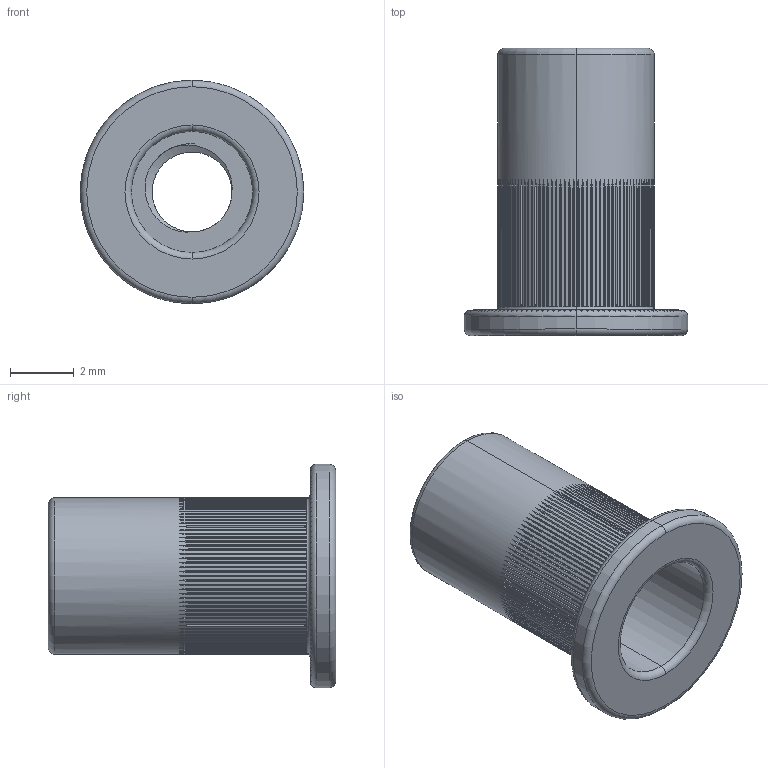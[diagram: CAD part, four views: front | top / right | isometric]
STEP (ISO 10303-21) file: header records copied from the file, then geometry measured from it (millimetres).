
FILE_DESCRIPTION (( 'STEP AP203' ), '1' );
FILE_NAME ('TANR-SAT-M3.STEP', '2026-08-24T09:19:16', ( '' ), ( '' ), 'SwSTEP 2.0', 'SolidWorks 2020', '' );
FILE_SCHEMA (( 'CONFIG_CONTROL_DESIGN' ));
Length unit declared in the file: millimetre
Products named in the file (1): TANR-SAT-M3
Bounding box: 7 x 9 x 7 mm (x, y, z)
Volume: 109.2 mm3; surface area: 329.5 mm2
Topology: 1 solids, 1 shells, 1535 faces, 4022 edges, 2489 vertices
Faces by surface type: cone 922, plane 464, cylinder 136, torus 10, bspline 3
Entity records: 49987 total; most frequent: CARTESIAN_POINT 15458, ORIENTED_EDGE 8020, DIRECTION 6151, EDGE_CURVE 4010, VERTEX_POINT 2479, AXIS2_PLACEMENT_3D 2257, LINE 1637, VECTOR 1637
